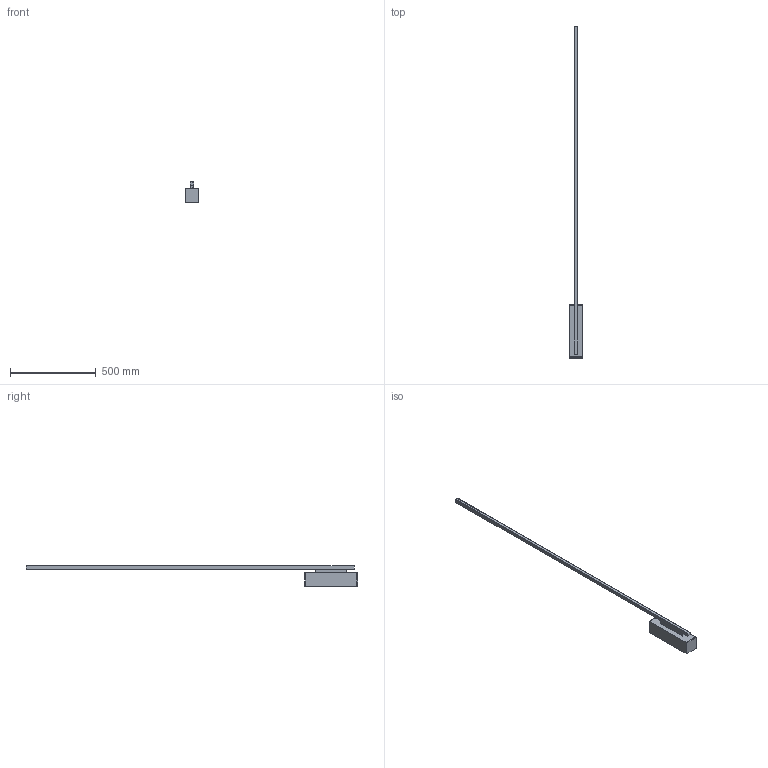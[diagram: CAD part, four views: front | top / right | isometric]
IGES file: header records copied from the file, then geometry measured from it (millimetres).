
Start section: SolidWorks IGES file using analytic representation for surfaces
Global section: file name: C:\Users\tungari.NEMOLIGHTING\Desktop\15_02\FLOOR\3D_LINESCAPES_FLOOR\DEFEATURE_3D_LINESCAPES_FLOOR\3D_LINESCAPES_FLOOR.IGS; native system: SolidWorks 2016; preprocessor: SolidWorks 2016; author: tungari; date: 180216.111031; units: millimetre
Bounding box: 80 x 1940 x 120 mm (x, y, z)
Surface area: 370535.7 mm2 (no closed solid volume)
Topology: 0 solids, 0 shells, 77 faces, 408 edges, 408 vertices
Faces by surface type: bspline 69, revolution 8
